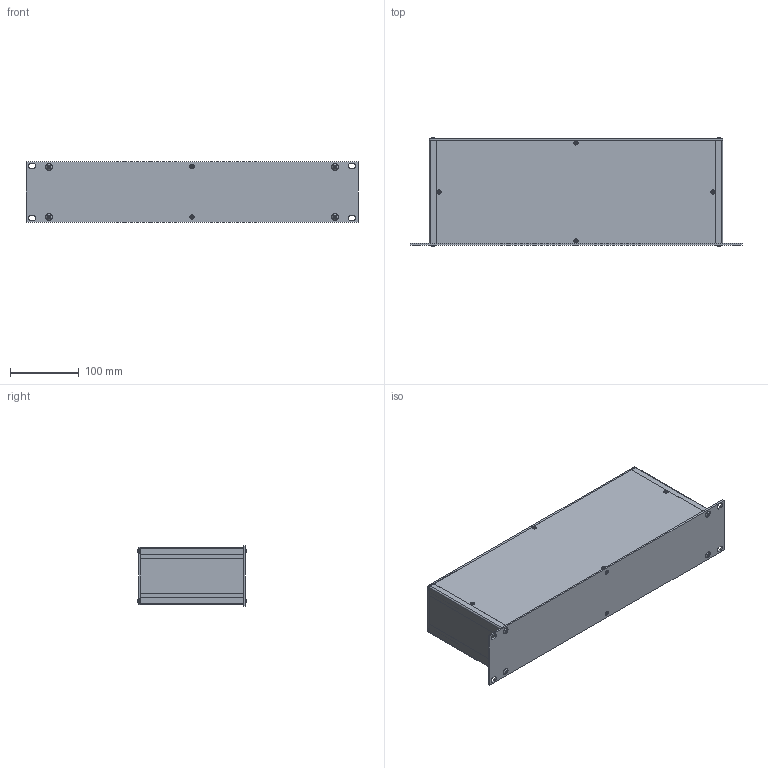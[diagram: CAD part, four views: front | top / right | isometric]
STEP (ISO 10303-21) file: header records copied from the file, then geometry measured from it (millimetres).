
FILE_DESCRIPTION(/* description */ (''),/* implementation_level */ '2;1');
FILE_NAME(/* name */ '//diskstation/Kunden/Gehäuse/Gehäuse/2HE/step/Zoll 2HE Rack Gehäuse Tiefe-150.step',/* time_stamp */ '2022-02-17T15:39:14+01:00',/* author */ (''),/* organization */ (''),/* preprocessor_version */ 'ST-DEVELOPER v18.1',/* originating_system */ 'Autodesk Translation Framework v10.10.0.1391',/* authorisation */ '');
FILE_SCHEMA (('AUTOMOTIVE_DESIGN { 1 0 10303 214 3 1 1 }'));
Length unit declared in the file: millimetre
Products named in the file (28): 2HE Gehäuse mit parametern; Gehäuse; Gehäuseprofil 1 unten links; Gehäuseprofil 2 oben rechts; Gehäuseprofil 1 unten rechts; Gehäuseprofil 2 oben links; Rückplatte; Deckel; Seitenteil links; Seitenteil rechts; Bodenplatte; Montageklotz Front/Deckel; Montageklotz Front/Boden; Montageklotz Rück/Deckel; Montageklotz Rück/Boden; Gewindestreifen; Frontplatte; Schrauben M5; Schraube Front; Schraube Front (1); Schraube Front (2); Schraube Front (3); Schraube Rück (1); Schraube Rück; Schraube Rück (2); Schraube Rück (3); Schrauben M3; HI_Senkschraube DIN 965 A v2 M3x5 24677.030.005(High)
Assembly tree (37 placements, depth 3):
  2HE Gehäuse mit parametern
    Gehäuse
      Gehäuseprofil 1 unten links
      Gehäuseprofil 2 oben rechts
      Gehäuseprofil 1 unten rechts
      Gehäuseprofil 2 oben links
      Rückplatte
      Deckel
      Seitenteil links
      Seitenteil rechts
      Bodenplatte
      Montageklotz Front/Deckel
      Montageklotz Front/Boden
      Montageklotz Rück/Deckel
      Montageklotz Rück/Boden
      Gewindestreifen  x2
    Frontplatte
    Schrauben M5
      Schraube Front
      Schraube Front (1)
      Schraube Front (2)
      Schraube Front (3)
      Schraube Rück (1)
      Schraube Rück
      Schraube Rück (2)
      Schraube Rück (3)
    Schrauben M3
      HI_Senkschraube DIN 965 A v2 M3x5 24677.030.005(High)  x10
Bounding box: 483 x 158.2 x 88.1 mm (x, y, z)
Volume: 578536.9 mm3; surface area: 516039.5 mm2
Topology: 34 solids, 34 shells, 822 faces, 1980 edges, 1226 vertices
Faces by surface type: plane 346, cylinder 296, cone 164, torus 8, bspline 8
Full cylindrical faces by diameter (mm): 2.529 x50, 3 x10, 3.2 x10, 4.234 x40, 5 x8, 5.2 x8, 5.3 x4, 5.6 x10, 9.5 x8
Entity records: 16201 total; most frequent: CARTESIAN_POINT 2982, DIRECTION 2704, ORIENTED_EDGE 2394, EDGE_CURVE 1197, AXIS2_PLACEMENT_3D 1008, VERTEX_POINT 746, LINE 688, VECTOR 688
